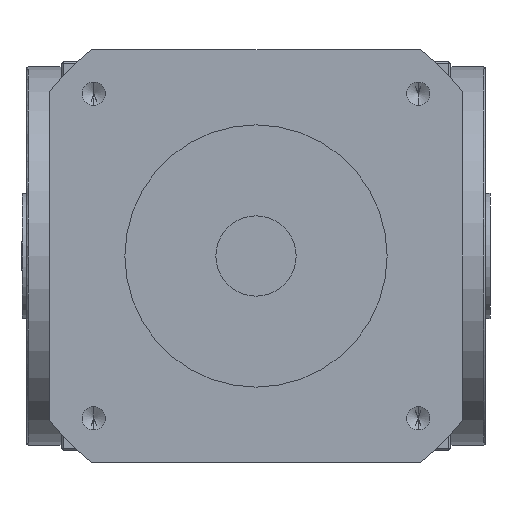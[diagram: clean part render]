
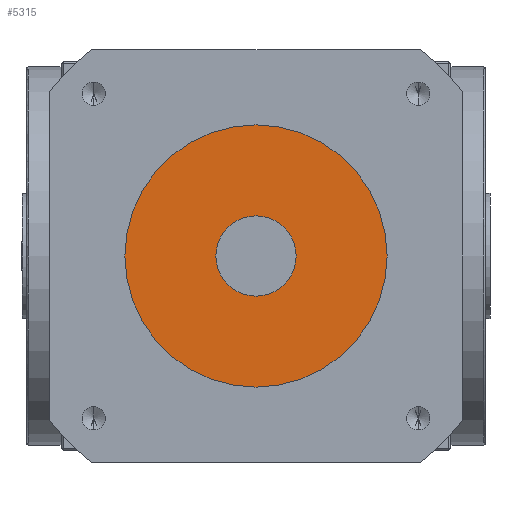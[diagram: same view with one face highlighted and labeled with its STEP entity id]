
A CAD part, front view. The second image highlights one B-rep face of the part: STEP entity #5315.
In plain terms, the highlighted planar face has unit normal (0, -1, 0).
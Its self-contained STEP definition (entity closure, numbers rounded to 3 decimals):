
#2347 = DIRECTION ( 'NONE',  ( 0., -1., 0. ) ) ;
#2477 = VERTEX_POINT ( 'NONE', #2860 ) ;
#2860 = CARTESIAN_POINT ( 'NONE',  ( 0., -296., 57.15 ) ) ;
#3111 = DIRECTION ( 'NONE',  ( 0., 0., -1. ) ) ;
#3245 = CARTESIAN_POINT ( 'NONE',  ( 0., -296., -57.15 ) ) ;
#3299 = DIRECTION ( 'NONE',  ( 0., -1., 0. ) ) ;
#3830 = AXIS2_PLACEMENT_3D ( 'NONE', #6096, #6093, #6072 ) ;
#4123 = FACE_OUTER_BOUND ( 'NONE', #4803, .T. ) ;
#4279 = CIRCLE ( 'NONE', #3830, 57.15 ) ;
#4345 = FACE_BOUND ( 'NONE', #8678, .T. ) ;
#4464 = DIRECTION ( 'NONE',  ( 0., 0., -1. ) ) ;
#4478 = DIRECTION ( 'NONE',  ( 0., 1., 0. ) ) ;
#4489 = CARTESIAN_POINT ( 'NONE',  ( 0., -296., 0. ) ) ;
#4522 = DIRECTION ( 'NONE',  ( 0., 0., -1. ) ) ;
#4535 = DIRECTION ( 'NONE',  ( 0., 1., 0. ) ) ;
#4572 = CARTESIAN_POINT ( 'NONE',  ( 0., -296., 0. ) ) ;
#4803 = EDGE_LOOP ( 'NONE', ( #9521, #8941 ) ) ;
#5240 = ORIENTED_EDGE ( 'NONE', *, *, #6752, .T. ) ;
#5304 = ORIENTED_EDGE ( 'NONE', *, *, #6767, .T. ) ;
#5315 = ADVANCED_FACE ( 'NONE', ( #4345, #4123 ), #11573, .T. ) ;
#5492 = EDGE_CURVE ( 'NONE', #9589, #2477, #9205, .T. ) ;
#6072 = DIRECTION ( 'NONE',  ( 0., 0., -1. ) ) ;
#6093 = DIRECTION ( 'NONE',  ( 0., -1., 0. ) ) ;
#6096 = CARTESIAN_POINT ( 'NONE',  ( 0., -296., 0. ) ) ;
#6429 = CIRCLE ( 'NONE', #10291, 17.5 ) ;
#6594 = AXIS2_PLACEMENT_3D ( 'NONE', #10954, #2347, #3111 ) ;
#6644 = CIRCLE ( 'NONE', #10455, 17.5 ) ;
#6658 = CARTESIAN_POINT ( 'NONE',  ( 0., -296., 0. ) ) ;
#6752 = EDGE_CURVE ( 'NONE', #10468, #8710, #6644, .T. ) ;
#6767 = EDGE_CURVE ( 'NONE', #8710, #10468, #6429, .T. ) ;
#7534 = AXIS2_PLACEMENT_3D ( 'NONE', #6658, #3299, #8762 ) ;
#8106 = CARTESIAN_POINT ( 'NONE',  ( 0., -296., -17.5 ) ) ;
#8678 = EDGE_LOOP ( 'NONE', ( #5304, #5240 ) ) ;
#8710 = VERTEX_POINT ( 'NONE', #8106 ) ;
#8762 = DIRECTION ( 'NONE',  ( 0., 0., -1. ) ) ;
#8941 = ORIENTED_EDGE ( 'NONE', *, *, #9065, .T. ) ;
#9065 = EDGE_CURVE ( 'NONE', #2477, #9589, #4279, .T. ) ;
#9205 = CIRCLE ( 'NONE', #6594, 57.15 ) ;
#9521 = ORIENTED_EDGE ( 'NONE', *, *, #5492, .T. ) ;
#9589 = VERTEX_POINT ( 'NONE', #3245 ) ;
#10237 = CARTESIAN_POINT ( 'NONE',  ( 0., -296., 17.5 ) ) ;
#10291 = AXIS2_PLACEMENT_3D ( 'NONE', #4489, #4478, #4464 ) ;
#10455 = AXIS2_PLACEMENT_3D ( 'NONE', #4572, #4535, #4522 ) ;
#10468 = VERTEX_POINT ( 'NONE', #10237 ) ;
#10954 = CARTESIAN_POINT ( 'NONE',  ( 0., -296., 0. ) ) ;
#11573 = PLANE ( 'NONE',  #7534 ) ;
